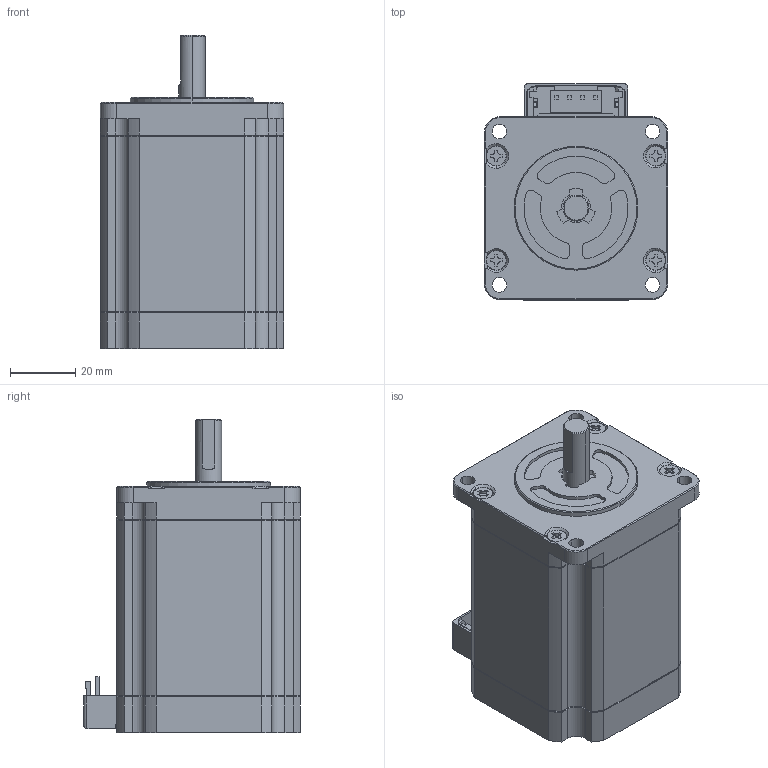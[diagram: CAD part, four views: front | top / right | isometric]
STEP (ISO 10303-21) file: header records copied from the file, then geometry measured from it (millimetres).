
FILE_DESCRIPTION (( 'STEP AP203' ), '1' );
FILE_NAME ('SM2563C10B41.STEP', '2021-05-07T07:28:08', ( '' ), ( '' ), 'SwSTEP 2.0', 'SolidWorks 2019', '' );
FILE_SCHEMA (( 'CONFIG_CONTROL_DESIGN' ));
Length unit declared in the file: millimetre
Products named in the file (10): Copy of FRONT COVER^01124152; SM2563C10B41; Copy of TERMINAL^01124152; Copy of REAR COVER^01124152; Copy of INSULATOR_REAR^01124152_コネクタタイプ（10.1L）; Copy of SCREW^01124152; Copy of SUBSTRATE^Copy of TERMINAL_01124152; Copy of STATOR^01124152; Copy of OUTPUT SHAFT^01124152; Copy of CONNECTOR^Copy of TERMINAL_01124152
Assembly tree (12 placements, depth 3):
  SM2563C10B41
    Copy of FRONT COVER^01124152
    Copy of STATOR^01124152
    Copy of INSULATOR_REAR^01124152_コネクタタイプ（10.1L）
    Copy of TERMINAL^01124152
      Copy of SUBSTRATE^Copy of TERMINAL_01124152
      Copy of CONNECTOR^Copy of TERMINAL_01124152
    Copy of REAR COVER^01124152
    Copy of OUTPUT SHAFT^01124152
    Copy of SCREW^01124152  x4
Bounding box: 56.4 x 66.6 x 96.4 mm (x, y, z)
Volume: 236444.6 mm3; surface area: 44606.1 mm2
Topology: 11 solids, 11 shells, 606 faces, 1580 edges, 1018 vertices
Faces by surface type: plane 382, cylinder 155, cone 69
Entity records: 17608 total; most frequent: CARTESIAN_POINT 3007, ORIENTED_EDGE 2812, DIRECTION 2808, EDGE_CURVE 1406, LINE 1014, VECTOR 1014, VERTEX_POINT 904, AXIS2_PLACEMENT_3D 897
